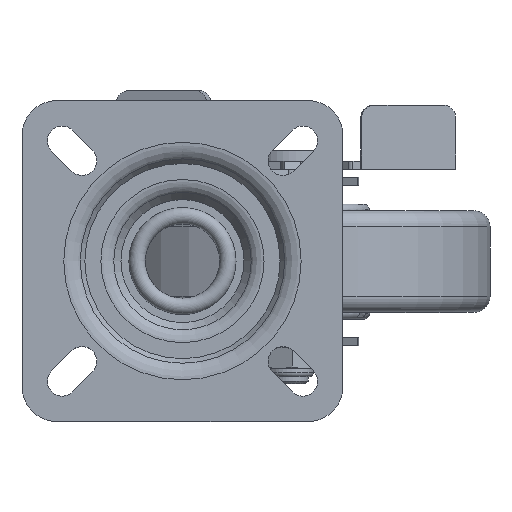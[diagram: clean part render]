
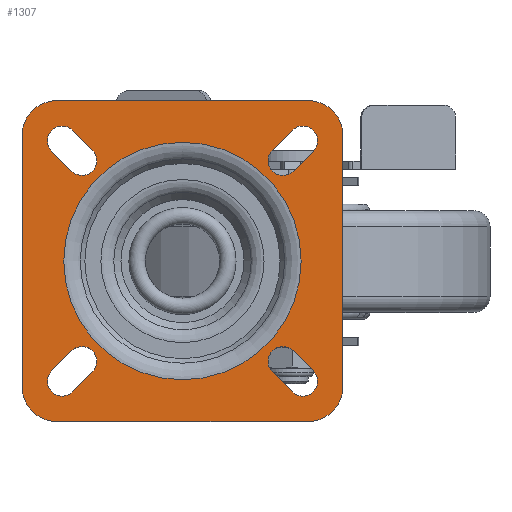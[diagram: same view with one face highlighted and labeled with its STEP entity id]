
A CAD part, top view. The second image highlights one B-rep face of the part: STEP entity #1307.
In plain terms, the highlighted planar face has unit normal (0, 0, 1).
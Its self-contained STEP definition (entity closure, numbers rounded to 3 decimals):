
#1307=ADVANCED_FACE('',(#4453,#4454,#4455,#4456,#4457,#4458),#2145,.T.);
#2145=PLANE('',#13573);
#2557=CIRCLE('',#13560,5.5);
#2558=CIRCLE('',#13561,5.5);
#2559=CIRCLE('',#13562,5.5);
#2560=CIRCLE('',#13563,5.5);
#2561=CIRCLE('',#13564,13.);
#2562=CIRCLE('',#13565,13.);
#2563=CIRCLE('',#13566,13.);
#2564=CIRCLE('',#13567,13.);
#2565=CIRCLE('',#13568,44.39);
#2566=CIRCLE('',#13569,5.5);
#2567=CIRCLE('',#13570,5.5);
#2568=CIRCLE('',#13571,5.5);
#2569=CIRCLE('',#13572,5.5);
#3175=LINE('',#18791,#3834);
#3176=LINE('',#18796,#3835);
#3177=LINE('',#18802,#3836);
#3178=LINE('',#18806,#3837);
#3179=LINE('',#18807,#3838);
#3180=LINE('',#18812,#3839);
#3181=LINE('',#18816,#3840);
#3182=LINE('',#18820,#3841);
#3183=LINE('',#18825,#3842);
#3184=LINE('',#18830,#3843);
#3185=LINE('',#18836,#3844);
#3186=LINE('',#18840,#3845);
#3834=VECTOR('',#14982,1.);
#3835=VECTOR('',#14985,1.);
#3836=VECTOR('',#14990,1.);
#3837=VECTOR('',#14993,1.);
#3838=VECTOR('',#14994,1.);
#3839=VECTOR('',#14997,1.);
#3840=VECTOR('',#15000,1.);
#3841=VECTOR('',#15003,1.);
#3842=VECTOR('',#15008,1.);
#3843=VECTOR('',#15011,1.);
#3844=VECTOR('',#15016,1.);
#3845=VECTOR('',#15019,1.);
#4453=FACE_BOUND('',#4724,.T.);
#4454=FACE_BOUND('',#4725,.T.);
#4455=FACE_BOUND('',#4726,.T.);
#4456=FACE_BOUND('',#4727,.T.);
#4457=FACE_BOUND('',#4728,.T.);
#4458=FACE_BOUND('',#4729,.T.);
#4724=EDGE_LOOP('',(#5930,#5931,#5932,#5933));
#4725=EDGE_LOOP('',(#5934,#5935,#5936,#5937));
#4726=EDGE_LOOP('',(#5938,#5939,#5940,#5941,#5942,#5943,#5944,#5945));
#4727=EDGE_LOOP('',(#5946));
#4728=EDGE_LOOP('',(#5947,#5948,#5949,#5950));
#4729=EDGE_LOOP('',(#5951,#5952,#5953,#5954));
#5930=ORIENTED_EDGE('',*,*,#11106,.F.);
#5931=ORIENTED_EDGE('',*,*,#11107,.F.);
#5932=ORIENTED_EDGE('',*,*,#11108,.F.);
#5933=ORIENTED_EDGE('',*,*,#11109,.F.);
#5934=ORIENTED_EDGE('',*,*,#11110,.T.);
#5935=ORIENTED_EDGE('',*,*,#11111,.T.);
#5936=ORIENTED_EDGE('',*,*,#11112,.T.);
#5937=ORIENTED_EDGE('',*,*,#11113,.T.);
#5938=ORIENTED_EDGE('',*,*,#11114,.F.);
#5939=ORIENTED_EDGE('',*,*,#11115,.T.);
#5940=ORIENTED_EDGE('',*,*,#11116,.T.);
#5941=ORIENTED_EDGE('',*,*,#11117,.T.);
#5942=ORIENTED_EDGE('',*,*,#11118,.F.);
#5943=ORIENTED_EDGE('',*,*,#11119,.T.);
#5944=ORIENTED_EDGE('',*,*,#11120,.T.);
#5945=ORIENTED_EDGE('',*,*,#11121,.T.);
#5946=ORIENTED_EDGE('',*,*,#11122,.T.);
#5947=ORIENTED_EDGE('',*,*,#11123,.F.);
#5948=ORIENTED_EDGE('',*,*,#11124,.F.);
#5949=ORIENTED_EDGE('',*,*,#11125,.F.);
#5950=ORIENTED_EDGE('',*,*,#11126,.F.);
#5951=ORIENTED_EDGE('',*,*,#11127,.T.);
#5952=ORIENTED_EDGE('',*,*,#11128,.T.);
#5953=ORIENTED_EDGE('',*,*,#11129,.T.);
#5954=ORIENTED_EDGE('',*,*,#11130,.T.);
#9844=VERTEX_POINT('',#18792);
#9845=VERTEX_POINT('',#18793);
#9846=VERTEX_POINT('',#18795);
#9847=VERTEX_POINT('',#18797);
#9848=VERTEX_POINT('',#18800);
#9849=VERTEX_POINT('',#18801);
#9850=VERTEX_POINT('',#18803);
#9851=VERTEX_POINT('',#18805);
#9852=VERTEX_POINT('',#18808);
#9853=VERTEX_POINT('',#18809);
#9854=VERTEX_POINT('',#18811);
#9855=VERTEX_POINT('',#18813);
#9856=VERTEX_POINT('',#18815);
#9857=VERTEX_POINT('',#18817);
#9858=VERTEX_POINT('',#18819);
#9859=VERTEX_POINT('',#18821);
#9860=VERTEX_POINT('',#18824);
#9861=VERTEX_POINT('',#18826);
#9862=VERTEX_POINT('',#18827);
#9863=VERTEX_POINT('',#18829);
#9864=VERTEX_POINT('',#18831);
#9865=VERTEX_POINT('',#18834);
#9866=VERTEX_POINT('',#18835);
#9867=VERTEX_POINT('',#18837);
#9868=VERTEX_POINT('',#18839);
#11106=EDGE_CURVE('',#9844,#9845,#3175,.T.);
#11107=EDGE_CURVE('',#9846,#9844,#2557,.T.);
#11108=EDGE_CURVE('',#9847,#9846,#3176,.T.);
#11109=EDGE_CURVE('',#9845,#9847,#2558,.T.);
#11110=EDGE_CURVE('',#9848,#9849,#2559,.T.);
#11111=EDGE_CURVE('',#9849,#9850,#3177,.T.);
#11112=EDGE_CURVE('',#9850,#9851,#2560,.T.);
#11113=EDGE_CURVE('',#9851,#9848,#3178,.T.);
#11114=EDGE_CURVE('',#9852,#9853,#3179,.T.);
#11115=EDGE_CURVE('',#9852,#9854,#2561,.T.);
#11116=EDGE_CURVE('',#9854,#9855,#3180,.T.);
#11117=EDGE_CURVE('',#9855,#9856,#2562,.T.);
#11118=EDGE_CURVE('',#9857,#9856,#3181,.T.);
#11119=EDGE_CURVE('',#9857,#9858,#2563,.T.);
#11120=EDGE_CURVE('',#9858,#9859,#3182,.T.);
#11121=EDGE_CURVE('',#9859,#9853,#2564,.T.);
#11122=EDGE_CURVE('',#9860,#9860,#2565,.T.);
#11123=EDGE_CURVE('',#9861,#9862,#3183,.T.);
#11124=EDGE_CURVE('',#9863,#9861,#2566,.T.);
#11125=EDGE_CURVE('',#9864,#9863,#3184,.T.);
#11126=EDGE_CURVE('',#9862,#9864,#2567,.T.);
#11127=EDGE_CURVE('',#9865,#9866,#2568,.T.);
#11128=EDGE_CURVE('',#9866,#9867,#3185,.T.);
#11129=EDGE_CURVE('',#9867,#9868,#2569,.T.);
#11130=EDGE_CURVE('',#9868,#9865,#3186,.T.);
#13560=AXIS2_PLACEMENT_3D('',#18794,#14983,#14984);
#13561=AXIS2_PLACEMENT_3D('',#18798,#14986,#14987);
#13562=AXIS2_PLACEMENT_3D('',#18799,#14988,#14989);
#13563=AXIS2_PLACEMENT_3D('',#18804,#14991,#14992);
#13564=AXIS2_PLACEMENT_3D('',#18810,#14995,#14996);
#13565=AXIS2_PLACEMENT_3D('',#18814,#14998,#14999);
#13566=AXIS2_PLACEMENT_3D('',#18818,#15001,#15002);
#13567=AXIS2_PLACEMENT_3D('',#18822,#15004,#15005);
#13568=AXIS2_PLACEMENT_3D('',#18823,#15006,#15007);
#13569=AXIS2_PLACEMENT_3D('',#18828,#15009,#15010);
#13570=AXIS2_PLACEMENT_3D('',#18832,#15012,#15013);
#13571=AXIS2_PLACEMENT_3D('',#18833,#15014,#15015);
#13572=AXIS2_PLACEMENT_3D('',#18838,#15017,#15018);
#13573=AXIS2_PLACEMENT_3D('',#18841,#15020,#15021);
#14982=DIRECTION('',(-0.707,-0.707,0.));
#14983=DIRECTION('',(0.,0.,1.));
#14984=DIRECTION('',(-1.,0.,0.));
#14985=DIRECTION('',(0.707,0.707,0.));
#14986=DIRECTION('',(0.,0.,1.));
#14987=DIRECTION('',(-1.,0.,0.));
#14988=DIRECTION('',(0.,0.,-1.));
#14989=DIRECTION('',(-1.,0.,0.));
#14990=DIRECTION('',(-0.707,0.707,0.));
#14991=DIRECTION('',(0.,0.,-1.));
#14992=DIRECTION('',(-1.,0.,0.));
#14993=DIRECTION('',(0.707,-0.707,0.));
#14994=DIRECTION('',(0.,-1.,0.));
#14995=DIRECTION('',(0.,0.,1.));
#14996=DIRECTION('',(-1.,0.,0.));
#14997=DIRECTION('',(-1.,0.,0.));
#14998=DIRECTION('',(0.,0.,1.));
#14999=DIRECTION('',(-1.,0.,0.));
#15000=DIRECTION('',(0.,1.,0.));
#15001=DIRECTION('',(0.,0.,1.));
#15002=DIRECTION('',(-1.,0.,0.));
#15003=DIRECTION('',(1.,0.,0.));
#15004=DIRECTION('',(0.,0.,1.));
#15005=DIRECTION('',(-1.,0.,0.));
#15006=DIRECTION('',(0.,0.,-1.));
#15007=DIRECTION('',(0.,1.,0.));
#15008=DIRECTION('',(0.707,-0.707,0.));
#15009=DIRECTION('',(0.,0.,1.));
#15010=DIRECTION('',(1.,0.,0.));
#15011=DIRECTION('',(-0.707,0.707,0.));
#15012=DIRECTION('',(0.,0.,1.));
#15013=DIRECTION('',(1.,0.,0.));
#15014=DIRECTION('',(0.,0.,-1.));
#15015=DIRECTION('',(1.,0.,0.));
#15016=DIRECTION('',(0.707,0.707,0.));
#15017=DIRECTION('',(0.,0.,-1.));
#15018=DIRECTION('',(1.,0.,0.));
#15019=DIRECTION('',(-0.707,-0.707,0.));
#15020=DIRECTION('',(0.,0.,1.));
#15021=DIRECTION('',(0.,1.,0.));
#18791=CARTESIAN_POINT('',(41.111,48.889,0.));
#18792=CARTESIAN_POINT('',(41.111,48.889,0.));
#18793=CARTESIAN_POINT('',(33.611,41.389,0.));
#18794=CARTESIAN_POINT('',(45.,45.,0.));
#18795=CARTESIAN_POINT('',(48.889,41.111,0.));
#18796=CARTESIAN_POINT('',(41.389,33.611,0.));
#18797=CARTESIAN_POINT('',(41.389,33.611,0.));
#18798=CARTESIAN_POINT('',(37.5,37.5,0.));
#18799=CARTESIAN_POINT('',(45.,-45.,0.));
#18800=CARTESIAN_POINT('',(48.889,-41.111,0.));
#18801=CARTESIAN_POINT('',(41.111,-48.889,0.));
#18802=CARTESIAN_POINT('',(41.111,-48.889,0.));
#18803=CARTESIAN_POINT('',(33.611,-41.389,0.));
#18804=CARTESIAN_POINT('',(37.5,-37.5,0.));
#18805=CARTESIAN_POINT('',(41.389,-33.611,0.));
#18806=CARTESIAN_POINT('',(41.389,-33.611,0.));
#18807=CARTESIAN_POINT('',(60.,0.,0.));
#18808=CARTESIAN_POINT('',(60.,47.,0.));
#18809=CARTESIAN_POINT('',(60.,-47.,0.));
#18810=CARTESIAN_POINT('',(47.,47.,0.));
#18811=CARTESIAN_POINT('',(47.,60.,0.));
#18812=CARTESIAN_POINT('',(0.,60.,0.));
#18813=CARTESIAN_POINT('',(-47.,60.,0.));
#18814=CARTESIAN_POINT('',(-47.,47.,0.));
#18815=CARTESIAN_POINT('',(-60.,47.,0.));
#18816=CARTESIAN_POINT('',(-60.,0.,0.));
#18817=CARTESIAN_POINT('',(-60.,-47.,0.));
#18818=CARTESIAN_POINT('',(-47.,-47.,0.));
#18819=CARTESIAN_POINT('',(-47.,-60.,0.));
#18820=CARTESIAN_POINT('',(0.,-60.,0.));
#18821=CARTESIAN_POINT('',(47.,-60.,0.));
#18822=CARTESIAN_POINT('',(47.,-47.,0.));
#18823=CARTESIAN_POINT('',(0.,0.,0.));
#18824=CARTESIAN_POINT('',(0.,44.39,0.));
#18825=CARTESIAN_POINT('',(-48.889,41.111,0.));
#18826=CARTESIAN_POINT('',(-48.889,41.111,0.));
#18827=CARTESIAN_POINT('',(-41.389,33.611,0.));
#18828=CARTESIAN_POINT('',(-45.,45.,0.));
#18829=CARTESIAN_POINT('',(-41.111,48.889,0.));
#18830=CARTESIAN_POINT('',(-33.611,41.389,0.));
#18831=CARTESIAN_POINT('',(-33.611,41.389,0.));
#18832=CARTESIAN_POINT('',(-37.5,37.5,0.));
#18833=CARTESIAN_POINT('',(-45.,-45.,0.));
#18834=CARTESIAN_POINT('',(-41.111,-48.889,0.));
#18835=CARTESIAN_POINT('',(-48.889,-41.111,0.));
#18836=CARTESIAN_POINT('',(-48.889,-41.111,0.));
#18837=CARTESIAN_POINT('',(-41.389,-33.611,0.));
#18838=CARTESIAN_POINT('',(-37.5,-37.5,0.));
#18839=CARTESIAN_POINT('',(-33.611,-41.389,0.));
#18840=CARTESIAN_POINT('',(-33.611,-41.389,0.));
#18841=CARTESIAN_POINT('',(-60.,0.,0.));
